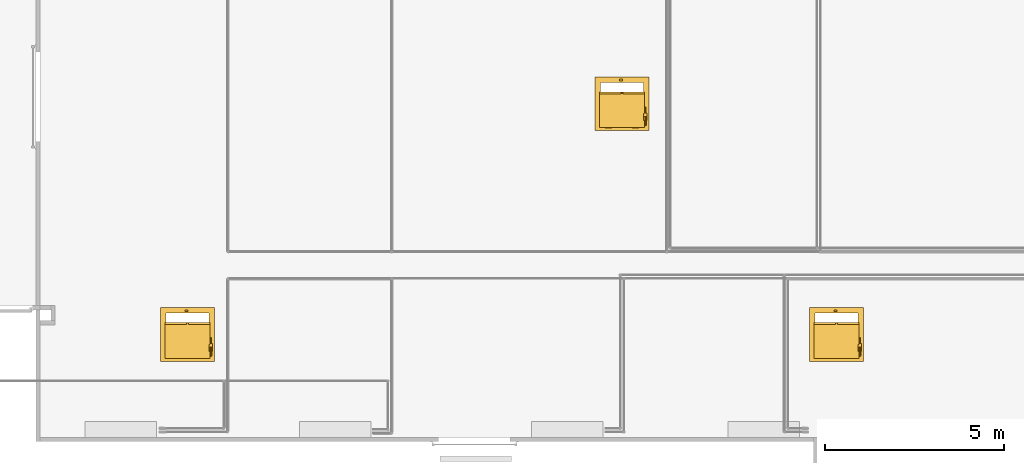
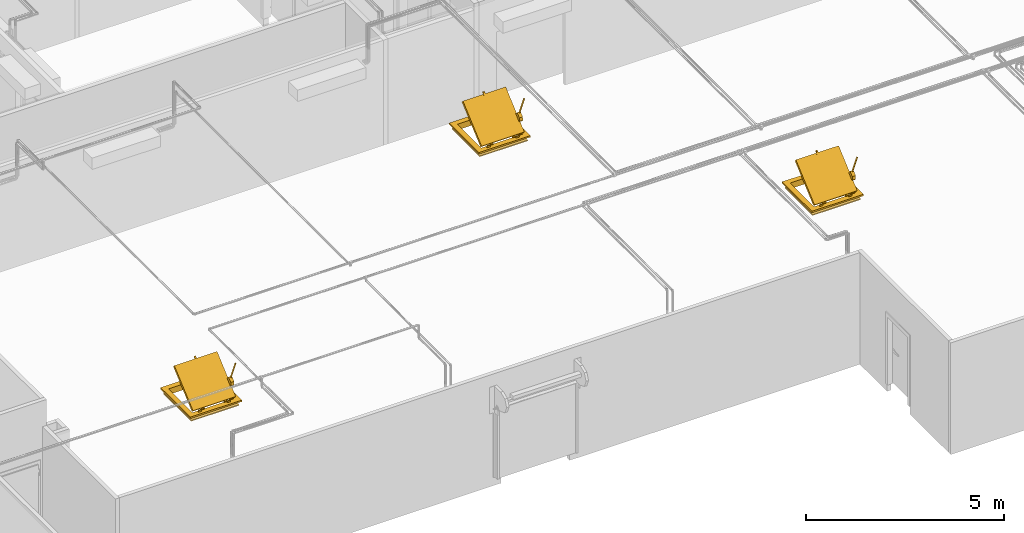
# One storey, part 38 of 652: 3 windows.
"""IFC2X3 building model written with IfcOpenShell, lengths in millimetres."""

from ifc_helpers import new_model, entity, si_unit, converted_unit, direction, frame, origin, place, context, subcontext, project, spatial, faceted_brep, source, transform, mapped, material, material_list, type_object, type_shapes, element, save


model = new_model("IFC2X3")

# Units and contexts
model_context = context("Model", 3, precision=0.01, world=frame((0.0, 0.0, 308426.39999999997)), true_north=direction((6.123233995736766e-17, 1.0)))
plan_context = context("Plan", 3, precision=0.01, world=frame((0.0, 0.0, 308426.39999999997)), true_north=direction((6.123233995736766e-17, 1.0)))
body_context = subcontext(model_context, "Body", "Model", "MODEL_VIEW")
ifc_project = project(units=[si_unit("LENGTHUNIT", "METRE", prefix="MILLI"), si_unit("AREAUNIT", "SQUARE_METRE"), si_unit("VOLUMEUNIT", "CUBIC_METRE"), converted_unit("PLANEANGLEUNIT", "DEGREE", entity("IfcPlaneAngleMeasure", 0.017453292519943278), si_unit("PLANEANGLEUNIT", "RADIAN"), dimensions=[0, 0, 0, 0, 0, 0, 0])], contexts=[model_context, plan_context])

# Site, building, storey
site_placement = place(None, origin())
site = spatial("IfcSite", under=ifc_project, at=site_placement, Name="Default", CompositionType="ELEMENT")
building_placement = place(site_placement, origin())
building = spatial("IfcBuilding", under=site, at=building_placement, CompositionType="ELEMENT")
storey_placement = place(building_placement, frame((0.0, 0.0, 1730.6999999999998)))
storey = spatial("IfcBuildingStorey", under=building, at=storey_placement, Name="EG_Produktion_FFB", CompositionType="ELEMENT", Elevation=1730.6999999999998)

# Windows
ifc_material_1 = material(Name="Aluminium")
ifc_material_2 = material(Name="Edelstahl, gebürstet")
ifc_material_3 = material(Name="RAL 9002")
ifc_material_4 = material(Name="PVC, hart")
ifc_material_5 = material(Name="Edelstahl")
ifc_material_6 = material(Name="<Unnamed>")
ifc_material_list = material_list([ifc_material_1, ifc_material_2, ifc_material_3, ifc_material_4, ifc_material_5, ifc_material_6])
window_style = type_object("IfcWindowStyle", Name="Entrauchungsluke Typ RWA12 elektrisch:Entrauchungsluke", ConstructionType="NOTDEFINED", OperationType="NOTDEFINED", ParameterTakesPrecedence=False, Sizeable=False, material=ifc_material_list)
shared_shape = source(origin(), body_context, "Body", "Brep", [
    faceted_brep([(162.62066647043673, 657.4999999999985, 66.08964888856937), (158.0, 662.4999999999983, 68.0), (300.1301226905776, 662.4999999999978, 411.7775854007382), (304.7507891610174, 657.4999999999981, 409.8672342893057), (153.37933352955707, 657.4999999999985, 69.91035111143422), (295.50945622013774, 657.4999999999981, 413.68793651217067), (158.0, 652.4999999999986, 68.0), (300.13012269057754, 652.4999999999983, 411.7775854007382), (278.8750569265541, 657.4999999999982, 420.5652005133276), (283.3111001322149, 660.9875640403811, 418.7311793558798), (287.7471433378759, 664.475128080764, 416.89715819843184), (292.786678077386, 668.4371499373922, 414.8136317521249), (296.26458336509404, 671.1714374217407, 413.3757395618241), (299.742488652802, 673.9057249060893, 411.9378473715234), (303.22039394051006, 676.6400123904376, 410.4999551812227), (306.69829922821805, 679.3742998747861, 409.06206299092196), (282.3874984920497, 652.268653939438, 419.1130297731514), (286.2185015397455, 646.562850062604, 417.52915416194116), (289.8902238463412, 641.094275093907, 416.01113098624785), (293.561946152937, 635.6257001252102, 414.4931078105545), (321.38518845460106, 657.499999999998, 402.9899702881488), (316.9491452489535, 654.0124359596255, 404.82399144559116), (312.5131020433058, 650.5248719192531, 406.6580126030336), (307.4735673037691, 646.5628500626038, 408.7415390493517), (303.99566201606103, 643.8285625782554, 410.1794312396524), (300.51775672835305, 641.0942750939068, 411.6173234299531), (297.039851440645, 638.3599876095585, 413.0552156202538), (310.3700215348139, 673.9057249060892, 407.5440398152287), (314.04174384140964, 668.4371499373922, 406.0260166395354), (317.7134661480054, 662.968574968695, 404.507993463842), (611.6109382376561, 667.9626921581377, 1124.8700145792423), (615.1233798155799, 662.7313460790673, 1123.417843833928), (618.6358213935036, 657.4999999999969, 1121.9656730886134), (603.9489321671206, 679.3742998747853, 1128.0377657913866), (607.7799352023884, 673.6684960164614, 1126.4538901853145), (576.1256898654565, 657.4999999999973, 1139.5409033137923), (580.5617330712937, 660.9875640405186, 1137.7068821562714), (584.9977762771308, 664.47512808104, 1135.8728609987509), (589.433819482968, 667.9626921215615, 1134.03883984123), (593.8698626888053, 671.4502561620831, 1132.2048186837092), (598.9093974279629, 675.4122780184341, 1130.121292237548), (614.199778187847, 654.0124359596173, 1123.7996942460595), (609.7637349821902, 650.5248719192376, 1125.633715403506), (605.3276917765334, 647.0373078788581, 1127.467736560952), (600.8916485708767, 643.5497438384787, 1129.3017577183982), (595.852113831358, 639.5877219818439, 1131.3852841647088), (590.8125790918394, 635.625700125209, 1133.4688106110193), (583.469134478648, 646.5628500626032, 1136.5048569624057), (579.7974121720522, 652.0314250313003, 1138.022880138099), (587.1408567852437, 641.094275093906, 1134.9868337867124), (597.380755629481, 657.4999999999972, 1130.7532882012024), (158.0, 657.4999999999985, 68.0)], [[[0, 1, 2, 3]], [[1, 4, 5, 2]], [[5, 4, 6, 7]], [[6, 0, 3, 7]], [[2, 5, 8]], [[2, 8, 9]], [[2, 9, 10]], [[2, 10, 11]], [[2, 11, 12]], [[2, 12, 13]], [[2, 13, 14]], [[2, 14, 15]], [[2, 15, 3]], [[5, 16, 8]], [[5, 17, 16]], [[5, 18, 17]], [[5, 19, 18]], [[7, 19, 5]], [[3, 20, 7]], [[7, 20, 21]], [[7, 21, 22]], [[7, 22, 23]], [[7, 23, 24]], [[7, 24, 25]], [[7, 25, 26]], [[7, 26, 19]], [[3, 15, 27]], [[3, 27, 28]], [[3, 28, 29]], [[3, 29, 20]], [[30, 31, 32, 20, 29, 28, 27, 15, 33, 34]], [[10, 9, 8, 35, 36, 37, 38, 39, 40, 33, 15, 14, 13, 12, 11]], [[26, 25, 24, 23, 22, 21, 20, 32, 41, 42, 43, 44, 45, 46, 19]], [[47, 48, 35, 8, 16, 17, 18, 19, 46, 49]], [[50, 33, 40]], [[50, 40, 39]], [[50, 39, 38]], [[50, 38, 37]], [[50, 37, 36]], [[50, 36, 35]], [[50, 35, 48]], [[50, 34, 33]], [[50, 30, 34]], [[50, 31, 30]], [[50, 32, 31]], [[50, 48, 47]], [[50, 47, 49]], [[50, 49, 46]], [[50, 46, 45]], [[50, 45, 44]], [[50, 44, 43]], [[50, 43, 42]], [[50, 42, 41]], [[50, 41, 32]], [[1, 51, 4]], [[51, 1, 0]], [[6, 51, 0]], [[51, 6, 4]]]),
    faceted_brep([(468.9776566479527, 693.0, 368.3156556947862), (426.33381976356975, 693.0, 319.25953298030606), (256.5241642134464, 693.0, 466.8728145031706), (348.3724282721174, 693.0, 572.5321557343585), (461.57886530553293, 693.0, 474.1233013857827), (468.9776566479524, 596.0, 368.3156556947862), (461.5788653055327, 596.0, 474.1233013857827), (348.3724282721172, 596.0, 572.5321557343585), (256.52416421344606, 596.0, 466.8728145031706), (426.33381976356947, 596.0, 319.25953298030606)], [[[0, 1, 2, 3, 4]], [[5, 6, 7, 8, 9]], [[1, 0, 5, 9]], [[2, 1, 9, 8]], [[3, 2, 8, 7]], [[4, 3, 7, 6]], [[0, 4, 6, 5]]]),
    faceted_brep([(-293.4844221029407, 4.375000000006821, 1007.2635949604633), (-291.8334948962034, 6.5625000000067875, 1005.8284658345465), (-290.18256768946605, 8.750000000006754, 1004.3933367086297), (-288.5316404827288, 10.937500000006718, 1002.958207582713), (-286.8807132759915, 13.125000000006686, 1001.5230784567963), (-285.2297860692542, 15.312500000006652, 1000.0879493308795), (-283.57885886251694, 17.50000000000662, 998.6528202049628), (-303.2606297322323, 17.500000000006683, 976.0115327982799), (-304.91155693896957, 15.312500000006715, 977.4466619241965), (-306.5624841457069, 13.12500000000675, 978.8817910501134), (-308.21341135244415, 10.937500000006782, 980.31692017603), (-309.8643385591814, 8.750000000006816, 981.7520493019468), (-311.379908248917, 6.74185046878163, 983.0695139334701), (-312.89547793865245, 4.733700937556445, 984.3869785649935), (-314.6817626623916, 2.366850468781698, 985.9397721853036), (-316.4680473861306, 0.0, 987.4925658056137), (-296.7862765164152, 0.0, 1010.1338532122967), (-294.9999917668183, 2.3668505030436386, 1008.5810595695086), (-301.74505999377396, 15.491850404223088, 974.6940681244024), (-281.9279316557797, 15.312500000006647, 997.2176910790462), (-280.2770044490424, 13.125000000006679, 995.7825619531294), (-278.62607724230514, 10.937500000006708, 994.3474328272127), (-276.9751500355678, 8.75000000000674, 992.9123037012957), (-275.45958028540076, 6.741850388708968, 991.5948390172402), (-273.9440105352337, 4.73370077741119, 990.2773743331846), (-272.15772587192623, 2.366850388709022, 988.7245807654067), (-270.3714412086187, 0.0, 987.171787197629), (-290.05321207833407, 0.0, 964.530499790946), (-291.8394967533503, 2.3668504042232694, 966.0832933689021), (-293.62578142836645, 4.7337008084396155, 967.6360869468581), (-295.4120661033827, 7.100551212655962, 969.188880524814), (-297.1983507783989, 9.467401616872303, 970.7416741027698), (-298.71392051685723, 11.475551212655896, 972.0591387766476), (-300.2294902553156, 13.48370080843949, 973.3766034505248), (-273.6732956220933, -4.374999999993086, 990.0420454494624), (-275.32422282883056, -6.562499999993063, 991.4771745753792), (-276.9751500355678, -8.749999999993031, 992.912303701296), (-278.62607724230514, -10.937499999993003, 994.3474328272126), (-280.2770044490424, -13.124999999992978, 995.7825619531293), (-281.9279316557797, -15.312499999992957, 997.2176910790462), (-283.578858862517, -17.499999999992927, 998.6528202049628), (-303.26062973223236, -17.499999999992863, 976.0115327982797), (-301.60970252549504, -15.312499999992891, 974.5764036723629), (-299.9587753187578, -13.124999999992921, 973.1412745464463), (-298.3078481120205, -10.93749999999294, 971.7061454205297), (-296.6569209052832, -8.749999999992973, 970.2710162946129), (-295.14135124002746, -6.741850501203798, 968.9535516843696), (-293.62578157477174, -4.733701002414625, 967.6360870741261), (-291.8394968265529, -2.366850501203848, 966.083293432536), (-272.15772598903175, -2.3668505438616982, 988.7245808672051), (-304.7761995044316, -15.491850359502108, 977.3289975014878), (-285.22978606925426, -15.312499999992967, 1000.0879493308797), (-286.8807132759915, -13.124999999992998, 1001.5230784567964), (-288.5316404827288, -10.937499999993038, 1002.9582075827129), (-290.1825676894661, -8.74999999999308, 1004.3933367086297), (-291.6981374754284, -6.741850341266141, 1005.710801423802), (-293.2137072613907, -4.733700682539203, 1007.0282661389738), (-294.99999188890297, -2.366850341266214, 1008.5810596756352), (-314.6817627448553, -2.36685035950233, 985.9397722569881), (-312.89547810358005, -4.733700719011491, 984.3869787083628), (-311.10919346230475, -7.100551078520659, 982.8341851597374), (-309.3229088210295, -9.467401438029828, 981.2813916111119), (-307.8073390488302, -11.475551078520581, 979.9639269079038), (-306.29176927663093, -13.483700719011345, 978.6464622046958), (-295.71353393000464, 0.0, 969.4509425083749), (-307.034177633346, 8.660254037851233, 979.2918279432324), (-299.4870818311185, -8.6602540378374, 972.7312376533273), (-310.80772553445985, 0.0, 982.5721230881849), (-320.6486109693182, 0.0, 971.2514793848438), (-316.8750630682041, 8.660254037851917, 967.9711842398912), (-305.5544193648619, 0.0, 958.1302988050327), (-309.327967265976, -8.66025403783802, 961.4105939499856), (-310.08267684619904, 0.0, 962.0666529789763), (-313.10151516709, 4.0, 964.6908890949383), (-313.10151516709, -4.0, 964.6908890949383), (-316.120353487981, 0.0, 967.3151252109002), (-335.8021243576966, 0.0, 944.6738378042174), (-332.7832860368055, 4.0, 942.0496016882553), (-329.7644477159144, 0.0, 939.4253655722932), (-332.7832860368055, -4.0, 942.0496016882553), (-332.7832860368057, 0.0, 942.0496016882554), (-283.5788588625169, 0.0, 998.6528202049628)], [[[0, 1, 2, 3, 4, 5, 6, 7, 8, 9, 10, 11, 12, 13, 14, 15, 16, 17]], [[18, 7, 6, 19, 20, 21, 22, 23, 24, 25, 26, 27, 28, 29, 30, 31, 32, 33]], [[34, 35, 36, 37, 38, 39, 40, 41, 42, 43, 44, 45, 46, 47, 48, 27, 26, 49]], [[50, 41, 40, 51, 52, 53, 54, 55, 56, 57, 16, 15, 58, 59, 60, 61, 62, 63]], [[64, 7, 18]], [[7, 64, 65]], [[64, 18, 33]], [[64, 33, 32]], [[64, 32, 31]], [[64, 31, 30]], [[64, 30, 29]], [[64, 29, 28]], [[64, 28, 27]], [[27, 66, 64]], [[65, 8, 7]], [[65, 9, 8]], [[65, 10, 9]], [[65, 11, 10]], [[65, 12, 11]], [[65, 13, 12]], [[65, 14, 13]], [[65, 15, 14]], [[65, 67, 15]], [[41, 67, 66]], [[67, 41, 50]], [[67, 50, 63]], [[67, 63, 62]], [[67, 62, 61]], [[67, 61, 60]], [[67, 60, 59]], [[67, 59, 58]], [[67, 58, 15]], [[66, 27, 48]], [[66, 48, 47]], [[66, 47, 46]], [[66, 46, 45]], [[66, 45, 44]], [[66, 44, 43]], [[66, 43, 42]], [[66, 42, 41]], [[68, 67, 65, 69]], [[65, 64, 70, 69]], [[70, 64, 66, 71]], [[66, 67, 68, 71]], [[70, 72, 73]], [[70, 73, 69]], [[70, 71, 72]], [[72, 71, 74]], [[68, 74, 71]], [[75, 68, 69]], [[74, 68, 75]], [[75, 69, 73]], [[76, 75, 73, 77]], [[73, 72, 78, 77]], [[78, 72, 74, 79]], [[74, 75, 76, 79]], [[78, 80, 77]], [[78, 79, 80]], [[76, 80, 79]], [[76, 77, 80]], [[81, 26, 25]], [[81, 25, 24]], [[81, 24, 23]], [[81, 23, 22]], [[81, 22, 21]], [[81, 21, 20]], [[81, 20, 19]], [[81, 19, 6]], [[81, 6, 5]], [[81, 5, 4]], [[81, 4, 3]], [[81, 3, 2]], [[81, 2, 1]], [[81, 1, 0]], [[81, 0, 17]], [[81, 17, 16]], [[81, 16, 57]], [[81, 49, 26]], [[81, 34, 49]], [[81, 35, 34]], [[81, 36, 35]], [[81, 37, 36]], [[81, 38, 37]], [[81, 39, 38]], [[81, 40, 39]], [[81, 57, 56]], [[81, 56, 55]], [[81, 55, 54]], [[81, 54, 53]], [[81, 53, 52]], [[81, 52, 51]], [[81, 51, 40]]]),
    faceted_brep([(-331.3352769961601, -30.0, 1017.6416202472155), (-233.22303156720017, -30.0, 932.3539464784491), (-230.59879545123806, -30.0, 935.3727847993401), (-328.71104088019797, -30.0, 1020.6604585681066), (-331.3352769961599, 30.0, 1017.6416202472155), (-328.71104088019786, 30.0, 1020.6604585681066), (-230.59879545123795, 30.0, 935.3727847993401), (-233.22303156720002, 30.0, 932.3539464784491)], [[[0, 1, 2, 3]], [[4, 5, 6, 7]], [[1, 0, 4, 7]], [[2, 1, 7, 6]], [[3, 2, 6, 5]], [[0, 3, 5, 4]]]),
    faceted_brep([(590.5100687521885, -596.0, 110.2926474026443), (-309.1037508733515, -596.0, 892.3150099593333), (-335.34611203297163, -596.0, 862.1266267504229), (564.267707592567, -596.0, 80.10426419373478), (590.5100687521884, 596.0, 110.29264740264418), (564.267707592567, 596.0, 80.10426419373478), (-335.34611203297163, 596.0, 862.1266267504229), (-309.1037508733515, 596.0, 892.3150099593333)], [[[0, 1, 2, 3]], [[4, 5, 6, 7]], [[1, 0, 4, 7]], [[2, 1, 7, 6]], [[3, 2, 6, 5]], [[0, 3, 5, 4]]]),
    faceted_brep([(625.5178271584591, 376.0, 106.36112716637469), (645.1995980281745, 376.0, 129.00241457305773), (667.8408854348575, 376.0, 109.32064370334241), (669.0617660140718, 376.0, 105.77494904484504), (670.2826465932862, 376.0, 102.22925438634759), (671.5035271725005, 376.0, 98.68355972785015), (672.7244077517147, 376.0, 95.13786506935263), (670.2641863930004, 376.0, 92.3077041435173), (667.8039650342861, 376.0, 89.47754321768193), (665.3437436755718, 376.0, 86.64738229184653), (662.8835223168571, 376.0, 83.81722136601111), (659.2024203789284, 376.0, 84.53275509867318), (655.5213184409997, 376.0, 85.24828883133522), (651.6524966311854, 376.0, 86.00031161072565), (648.1591145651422, 376.0, 86.67935629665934), (672.7244077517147, 281.0, 95.13786506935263), (671.4412676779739, 281.0, 98.86437442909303), (670.1581276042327, 281.0, 102.59088378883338), (668.9995065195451, 281.0, 105.95576374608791), (667.8408854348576, 281.0, 109.32064370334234), (645.1995980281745, 281.0, 129.00241457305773), (625.5178271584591, 281.0, 106.36112716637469), (648.1591145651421, 281.0, 86.67935629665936), (651.8402165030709, 281.0, 85.96382256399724), (655.5213184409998, 281.0, 85.2482888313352), (659.2024203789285, 281.0, 84.53275509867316), (662.8835223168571, 281.0, 83.81722136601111), (665.3437436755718, 281.0, 86.64738229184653), (667.8039650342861, 281.0, 89.47754321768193), (670.2641863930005, 281.0, 92.30770414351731)], [[[0, 1, 2, 3, 4, 5, 6, 7, 8, 9, 10, 11, 12, 13, 14]], [[15, 16, 17, 18, 19, 20, 21, 22, 23, 24, 25, 26, 27, 28, 29]], [[1, 0, 21, 20]], [[0, 14, 22, 21]], [[4, 3, 2, 19, 18, 17, 16, 15, 6, 5]], [[23, 22, 14, 13, 12, 11, 10, 26, 25, 24]], [[9, 8, 7, 6, 15, 29, 28, 27, 26, 10]], [[2, 1, 20, 19]]]),
    faceted_brep([(643.0, 471.0, 50.0), (643.0, 471.0, 98.0), (644.8749999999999, 471.0, 101.24759526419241), (646.7499999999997, 471.0, 104.49519052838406), (648.6249999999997, 471.0, 107.74278579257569), (650.4999999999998, 471.0, 110.9903810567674), (654.2499999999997, 471.0, 110.99038105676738), (658.0, 471.0, 110.99038105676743), (661.7499999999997, 471.0, 110.99038105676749), (665.4999999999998, 471.0, 110.99038105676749), (667.3749999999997, 471.0, 107.74278579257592), (669.2499999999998, 471.0, 104.49519052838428), (671.220616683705, 471.0, 101.08198230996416), (673.0, 471.0, 98.0), (673.0, 471.0, 50.0), (643.0, 376.0, 98.0), (643.0, 376.0, 50.0), (673.0, 376.0, 50.0), (673.0, 376.0, 98.0), (671.1249999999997, 376.0, 101.24759526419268), (669.2499999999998, 376.0, 104.4951905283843), (667.3749999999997, 376.0, 107.74278579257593), (665.4999999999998, 376.0, 110.99038105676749), (661.7499999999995, 376.0, 110.9903810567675), (658.0, 376.0, 110.99038105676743), (654.2499999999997, 376.0, 110.99038105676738), (650.4999999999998, 376.0, 110.9903810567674), (648.5293833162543, 376.0, 107.57717283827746), (646.558766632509, 376.0, 104.16396461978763), (644.7793833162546, 376.0, 101.0819823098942)], [[[0, 1, 2, 3, 4, 5, 6, 7, 8, 9, 10, 11, 12, 13, 14]], [[15, 16, 17, 18, 19, 20, 21, 22, 23, 24, 25, 26, 27, 28, 29]], [[0, 14, 17, 16]], [[14, 13, 18, 17]], [[3, 2, 1, 15, 29, 28, 27, 26, 5, 4]], [[19, 18, 13, 12, 11, 10, 9, 22, 21, 20]], [[8, 7, 6, 5, 26, 25, 24, 23, 22, 9]], [[1, 0, 16, 15]]]),
    faceted_brep([(664.88136889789, -625.0, 151.64370197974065), (-278.50560638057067, -625.0, 971.7174882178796), (-330.99032869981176, -625.0, 911.3407218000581), (612.396646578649, -625.0, 91.26693556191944), (664.88136889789, 625.0, 151.64370197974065), (612.396646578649, 625.0, 91.26693556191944), (-330.99032869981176, 625.0, 911.3407218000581), (-278.50560638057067, 625.0, 971.7174882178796)], [[[0, 1, 2, 3]], [[4, 5, 6, 7]], [[1, 0, 4, 7]], [[2, 1, 7, 6]], [[3, 2, 6, 5]], [[0, 3, 5, 4]]]),
    faceted_brep([(648.1591145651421, -376.0, 86.6793562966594), (651.8402165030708, -376.0, 85.96382256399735), (655.5213184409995, -376.0, 85.24828883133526), (659.2024203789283, -376.0, 84.53275509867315), (662.883522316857, -376.0, 83.81722136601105), (665.3437436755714, -376.0, 86.64738229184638), (667.8039650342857, -376.0, 89.47754321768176), (670.2641863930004, -376.0, 92.30770414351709), (672.7244077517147, -376.0, 95.13786506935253), (671.5035271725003, -376.0, 98.6835597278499), (670.2826465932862, -376.0, 102.22925438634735), (668.9995065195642, -376.0, 105.95576374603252), (667.8408854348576, -376.0, 109.32064370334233), (645.1995980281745, -376.0, 129.00241457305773), (625.5178271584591, -376.0, 106.36112716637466), (667.8408854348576, -281.0, 109.32064370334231), (669.0617660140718, -281.0, 105.7749490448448), (670.2826465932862, -281.0, 102.22925438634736), (671.5035271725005, -281.0, 98.6835597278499), (672.7244077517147, -281.0, 95.13786506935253), (670.2641863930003, -281.0, 92.30770414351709), (667.8039650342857, -281.0, 89.47754321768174), (665.3437436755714, -281.0, 86.64738229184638), (662.883522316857, -281.0, 83.81722136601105), (659.0147005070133, -281.0, 84.56924414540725), (655.1458786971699, -281.0, 85.32126692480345), (651.6524966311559, -281.0, 86.00031161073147), (648.1591145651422, -281.0, 86.67935629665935), (625.5178271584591, -281.0, 106.36112716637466), (645.1995980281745, -281.0, 129.00241457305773)], [[[0, 1, 2, 3, 4, 5, 6, 7, 8, 9, 10, 11, 12, 13, 14]], [[15, 16, 17, 18, 19, 20, 21, 22, 23, 24, 25, 26, 27, 28, 29]], [[14, 13, 29, 28]], [[0, 14, 28, 27]], [[2, 1, 0, 27, 26, 25, 24, 23, 4, 3]], [[16, 15, 12, 11, 10, 9, 8, 19, 18, 17]], [[7, 6, 5, 4, 23, 22, 21, 20, 19, 8]], [[13, 12, 15, 29]]]),
    faceted_brep([(673.0, -471.0, 98.0), (671.1249999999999, -471.0, 101.24759526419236), (669.25, -471.0, 104.49519052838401), (667.375, -471.0, 107.74278579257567), (665.5, -471.0, 110.9903810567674), (661.7500000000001, -471.0, 110.9903810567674), (658.0, -471.0, 110.99038105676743), (654.2500000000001, -471.0, 110.99038105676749), (650.4999999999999, -471.0, 110.99038105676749), (648.6250000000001, -471.0, 107.74278579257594), (646.75, -471.0, 104.49519052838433), (644.7793833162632, -471.0, 101.08198230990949), (643.0, -471.0, 98.0), (643.0, -471.0, 50.0), (673.0, -471.0, 50.0), (673.0, -376.0, 98.0), (673.0, -376.0, 50.0), (643.0, -376.0, 50.0), (643.0, -376.0, 98.0), (644.8749999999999, -376.0, 101.24759526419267), (646.75, -376.0, 104.49519052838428), (648.6250000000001, -376.0, 107.74278579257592), (650.4999999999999, -376.0, 110.99038105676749), (654.25, -376.0, 110.99038105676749), (658.0, -376.0, 110.99038105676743), (661.7500000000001, -376.0, 110.9903810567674), (665.5, -376.0, 110.9903810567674), (667.4706166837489, -376.0, 107.57717283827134), (669.4412333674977, -376.0, 104.16396461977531), (671.2206166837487, -376.0, 101.081982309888)], [[[0, 1, 2, 3, 4, 5, 6, 7, 8, 9, 10, 11, 12, 13, 14]], [[15, 16, 17, 18, 19, 20, 21, 22, 23, 24, 25, 26, 27, 28, 29]], [[14, 13, 17, 16]], [[0, 14, 16, 15]], [[2, 1, 0, 15, 29, 28, 27, 26, 4, 3]], [[19, 18, 12, 11, 10, 9, 8, 22, 21, 20]], [[7, 6, 5, 4, 26, 25, 24, 23, 22, 8]], [[13, 12, 18, 17]]]),
    faceted_brep([(-603.0, 603.0, 50.0), (-603.0, 603.0, 0.0), (603.0, 603.0, 0.0), (603.0, 603.0, 50.0), (-753.0, 753.0, 0.0), (-753.0, 753.0, 50.0), (753.0, 753.0, 50.0), (753.0, 753.0, 0.0), (603.0, -603.0, 0.0), (603.0, -603.0, 50.0), (753.0, -753.0, 50.0), (753.0, -753.0, 0.0), (-603.0, -603.0, 0.0), (-603.0, -603.0, 50.0), (-753.0, -753.0, 50.0), (-753.0, -753.0, 0.0)], [[[0, 1, 2, 3]], [[4, 5, 6, 7]], [[3, 2, 8, 9]], [[7, 6, 10, 11]], [[9, 8, 12, 13]], [[11, 10, 14, 15]], [[7, 11, 15, 4], [1, 12, 8, 2]], [[13, 12, 1, 0]], [[3, 9, 13, 0], [5, 14, 10, 6]], [[15, 14, 5, 4]]], outer=[[True], [True], [True], [True], [True], [True], [True, False], [True], [False, True], [True]]),
    faceted_brep([(-623.0, 623.0, -100.0), (-623.0, 623.0, 0.0), (623.0, 623.0, 0.0), (623.0, 623.0, -100.0), (-703.0, 703.0, -130.0), (-703.0, 703.0, -100.0), (703.0, 703.0, -100.0), (703.0, 703.0, -130.0), (-603.0, 603.0, 0.0), (-603.0, 603.0, -130.0), (603.0, 603.0, -130.0), (603.0, 603.0, 0.0), (623.0, -623.0, 0.0), (623.0, -623.0, -100.0), (703.0, -703.0, -100.0), (703.0, -703.0, -130.0), (603.0, -603.0, -130.0), (603.0, -603.0, 0.0), (-623.0, -623.0, 0.0), (-623.0, -623.0, -100.0), (-703.0, -703.0, -100.0), (-703.0, -703.0, -130.0), (-603.0, -603.0, -130.0), (-603.0, -603.0, 0.0)], [[[0, 1, 2, 3]], [[4, 5, 6, 7]], [[8, 9, 10, 11]], [[3, 2, 12, 13]], [[7, 6, 14, 15]], [[11, 10, 16, 17]], [[13, 12, 18, 19]], [[15, 14, 20, 21]], [[17, 16, 22, 23]], [[11, 17, 23, 8], [1, 18, 12, 2]], [[19, 18, 1, 0]], [[3, 13, 19, 0], [5, 20, 14, 6]], [[21, 20, 5, 4]], [[7, 15, 21, 4], [9, 22, 16, 10]], [[23, 22, 9, 8]]], outer=[[True], [True], [True], [True], [True], [True], [True], [True], [True], [False, True], [True], [False, True], [True], [True, False], [True]]),
    faceted_brep([(130.4999999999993, 642.5000000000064, 78.0), (83.0, 642.5000000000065, 60.0), (83.0, 642.5000000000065, 50.0), (233.0, 642.5000000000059, 50.0), (233.0, 642.5000000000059, 60.0), (185.49999999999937, 642.5000000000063, 78.0), (130.4999999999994, 672.5000000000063, 78.0), (185.49999999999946, 672.5000000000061, 78.0), (233.0, 672.5000000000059, 60.0), (233.0, 672.5000000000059, 50.0), (83.0, 672.5000000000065, 50.0), (83.0, 672.5000000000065, 60.0)], [[[0, 1, 2, 3, 4, 5]], [[6, 7, 8, 9, 10, 11]], [[1, 0, 6, 11]], [[2, 1, 11, 10]], [[3, 2, 10, 9]], [[4, 3, 9, 8]], [[5, 4, 8, 7]], [[0, 5, 7, 6]]]),
    faceted_brep([(-689.0, 12.0, 99.0), (-689.0, -70.0, 99.0), (-644.0, -70.0, 99.0), (-644.0, 12.0, 99.0), (-689.0, 12.0, 50.0), (-644.0, 12.0, 50.0), (-644.0, -70.0, 50.0), (-689.0, -70.0, 50.0)], [[[0, 1, 2, 3]], [[4, 5, 6, 7]], [[1, 0, 4, 7]], [[2, 1, 7, 6]], [[3, 2, 6, 5]], [[0, 3, 5, 4]]]),
])
type_shapes(window_style, [shared_shape])
for number, where, z_axis, x_axis, name in (
    (1, (41550.00000000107, 39210.0, 3100.0), (0.0, 0.0, 1.0), (0.0, -1.0, 0.0), "Entrauchungsluke Typ RWA12 elektrisch:Entrauchungsluke"),
    (2, (35550.00000000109, 45665.0, 3100.0), (0.0, 0.0, 1.0), (0.0, -1.0, 0.0), "Entrauchungsluke Typ RWA12 elektrisch:Entrauchungsluke"),
    (3, (23390.000000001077, 39210.0, 3100.0), (0.0, 0.0, 1.0), (0.0, -1.0, 0.0), "Entrauchungsluke Typ RWA12 elektrisch:Entrauchungsluke"),
):
    element("IfcWindow", number, at=place(storey_placement, frame(where, z_axis=z_axis, x_axis=x_axis)), inside=storey, type_object=window_style, material=ifc_material_list, Name=name, ObjectType="Entrauchungsluke Typ RWA12 elektrisch:Entrauchungsluke", OverallHeight=1506.0000000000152, OverallWidth=1505.999999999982, context=body_context, shape_type="MappedRepresentation", body=[
        mapped(shared_shape, transform((0.0, 0.0, 0.0), scale=1.0)),
    ])

save(model, "model.ifc")
